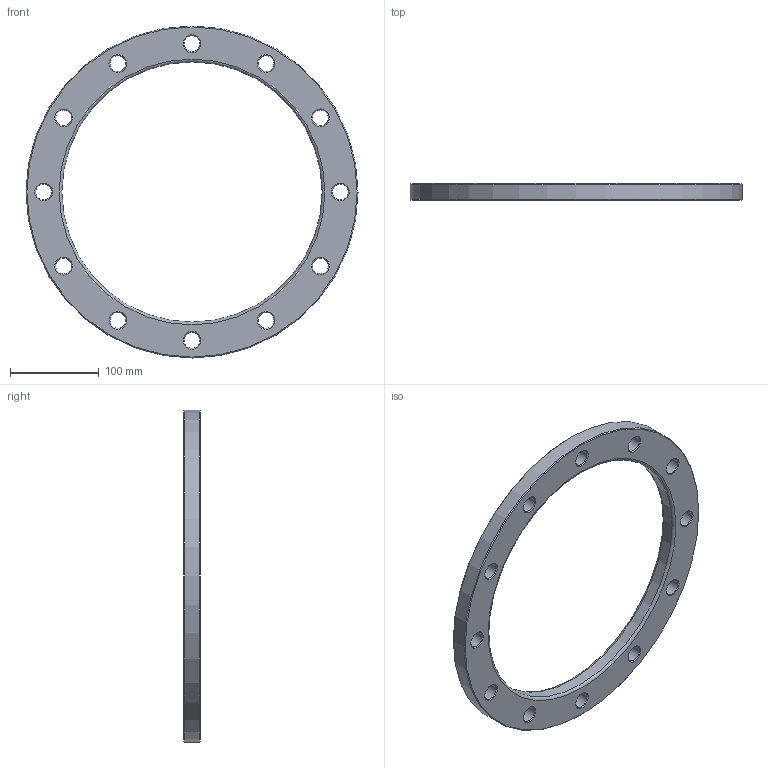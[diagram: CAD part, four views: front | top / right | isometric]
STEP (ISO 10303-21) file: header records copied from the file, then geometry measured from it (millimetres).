
FILE_DESCRIPTION(/* description */ ('Unknown'),/* implementation_level */ '2;1');
FILE_NAME(/* name */ 'FZ280A',/* time_stamp */ '2021-03-13T11:52:19+01:00',/* author */ ('Unknown'),/* organization */ ('Unknown'),/* preprocessor_version */ 'ST-DEVELOPER v16.7',/* originating_system */ 'Solid Edge',/* authorisation */ 'Unknown');
FILE_SCHEMA (('AUTOMOTIVE_DESIGN {1 0 10303 214 3 1 1}'));
Length unit declared in the file: millimetre
Products named in the file (1): FZ280A
Bounding box: 375 x 19 x 375 mm (x, y, z)
Volume: 745156.1 mm3; surface area: 127321.4 mm2
Topology: 1 solids, 1 shells, 44 faces, 134 edges, 92 vertices
Faces by surface type: cone 26, cylinder 14, plane 2, torus 2
Full cylindrical faces by diameter (mm): 18 x12, 294 x1, 375 x1
Entity records: 1086 total; most frequent: DIRECTION 202, CARTESIAN_POINT 157, ORIENTED_EDGE 112, EDGE_LOOP 112, FACE_BOUND 112, AXIS2_PLACEMENT_3D 101, EDGE_CURVE 56, VERTEX_POINT 56
